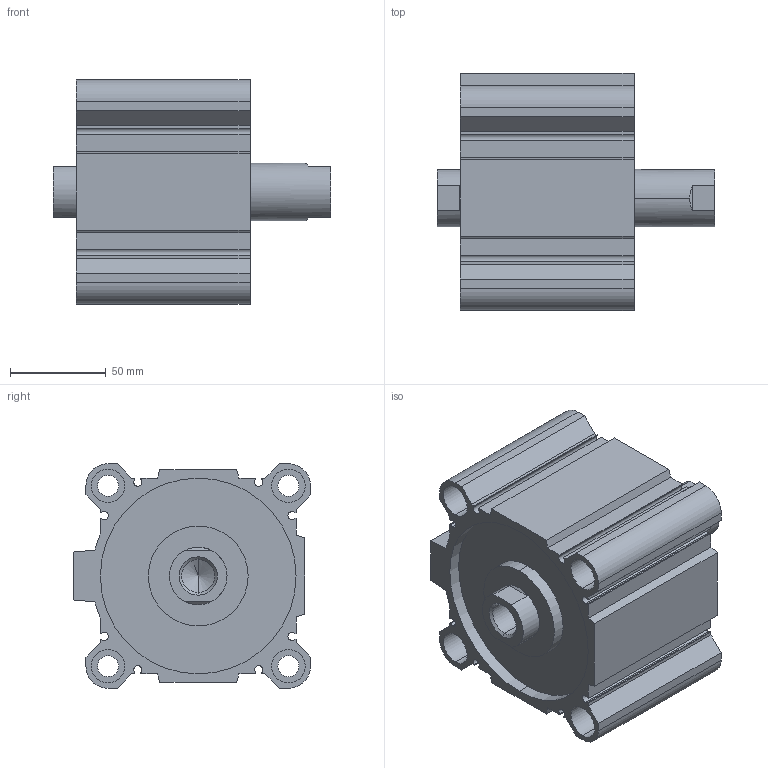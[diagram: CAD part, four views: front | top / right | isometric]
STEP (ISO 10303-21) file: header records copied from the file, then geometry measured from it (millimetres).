
FILE_DESCRIPTION (( 'STEP AP203' ), '1' );
FILE_NAME ('CCMB100-30F-P.STEP', '2020-08-05T11:53:50', ( '' ), ( '' ), 'SwSTEP 2.0', 'SolidWorks 2019', '' );
FILE_SCHEMA (( 'CONFIG_CONTROL_DESIGN' ));
Length unit declared in the file: millimetre
Products named in the file (1): CCMB100-30F-P
Bounding box: 144.5 x 123.5 x 117 mm (x, y, z)
Volume: 772034.1 mm3; surface area: 175943.8 mm2
Topology: 2 solids, 2 shells, 178 faces, 456 edges, 298 vertices
Faces by surface type: plane 90, cylinder 76, cone 12
Entity records: 5491 total; most frequent: DIRECTION 962, CARTESIAN_POINT 953, ORIENTED_EDGE 904, EDGE_CURVE 452, AXIS2_PLACEMENT_3D 339, VERTEX_POINT 298, LINE 284, VECTOR 284
